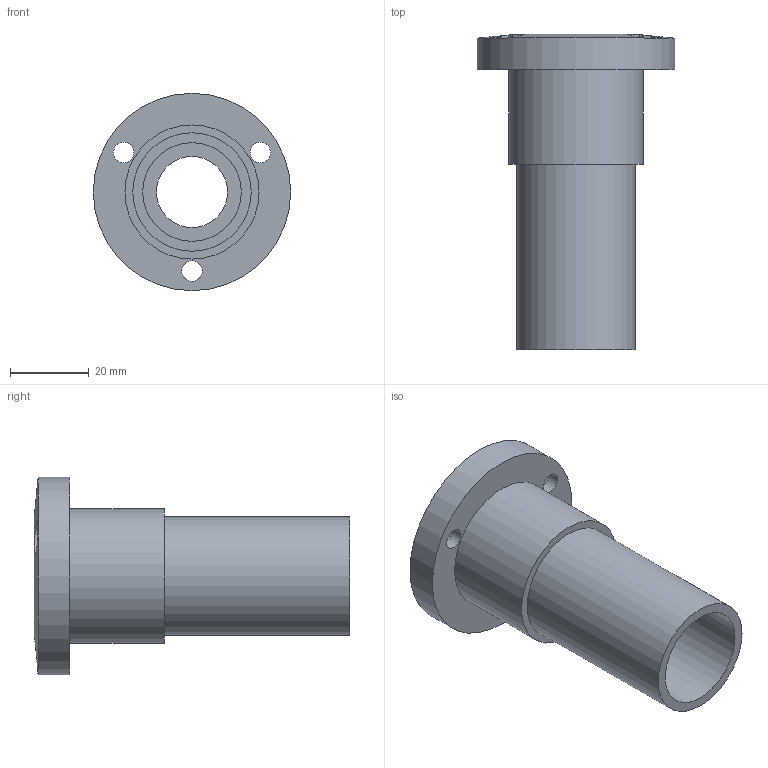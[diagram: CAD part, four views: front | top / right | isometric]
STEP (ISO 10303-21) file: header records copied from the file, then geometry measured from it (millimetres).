
FILE_DESCRIPTION( ( 'Unknown' ), '1' );
FILE_NAME( 'F:/navkite transat/construction/2016/3D ET ASSEMBLAGES/self tailing/WI 08.stp', 'Unknown', ( 'GMA' ), ( 'Unknown' ), 'XStep 1.0', 'Unknown', ' ' );
FILE_SCHEMA( ( 'automotive_design' ) );
Length unit declared in the file: millimetre
Products named in the file (1): 1
Bounding box: 50 x 80 x 50 mm (x, y, z)
Volume: 42301.8 mm3; surface area: 17980.3 mm2
Topology: 1 solids, 1 shells, 53 faces, 140 edges, 95 vertices
Faces by surface type: plane 33, cylinder 19, cone 1
Full cylindrical faces by diameter (mm): 5.2 x3, 8.5 x3, 18 x1, 25 x1, 30 x1, 34 x1, 50 x1
Entity records: 2158 total; most frequent: CARTESIAN_POINT 455, DIRECTION 260, ORIENTED_EDGE 238, EDGE_CURVE 119, AXIS2_PLACEMENT_3D 90, VERTEX_POINT 87, EDGE_LOOP 80, LINE 80
